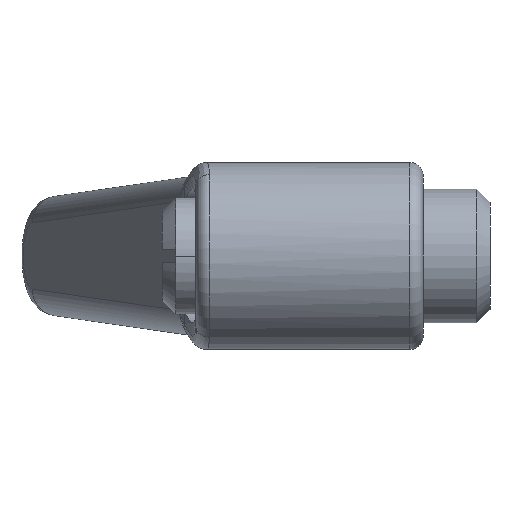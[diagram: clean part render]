
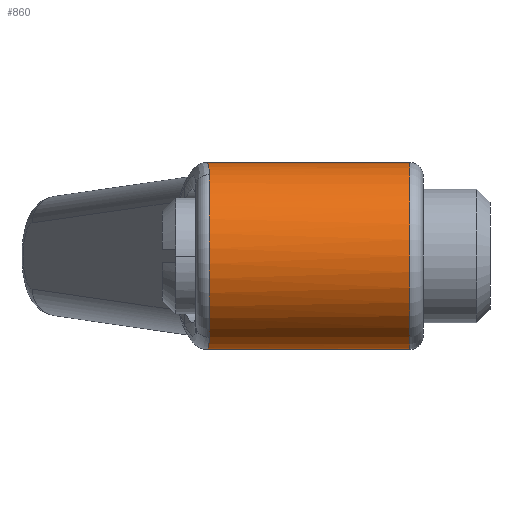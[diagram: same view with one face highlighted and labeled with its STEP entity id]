
A CAD part, left-side view. The second image highlights one B-rep face of the part: STEP entity #860.
In plain terms, the highlighted cylindrical face has radius 7 mm (diameter 14 mm), a partial arc.
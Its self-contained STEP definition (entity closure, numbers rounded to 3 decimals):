
#3 = FACE_OUTER_BOUND ( 'NONE', #1030, .T. ) ;
#55 = CARTESIAN_POINT ( 'NONE',  ( -3.461, -1., -6.084 ) ) ;
#83 = DIRECTION ( 'NONE',  ( 0., -1., 0. ) ) ;
#215 = AXIS2_PLACEMENT_3D ( 'NONE', #1991, #891, #2189 ) ;
#241 = CARTESIAN_POINT ( 'NONE',  ( 0., 17., 0. ) ) ;
#295 = CARTESIAN_POINT ( 'NONE',  ( -2.373, -0.985, -6.613 ) ) ;
#375 = CARTESIAN_POINT ( 'NONE',  ( -2.077, -0.968, 6.691 ) ) ;
#423 = CARTESIAN_POINT ( 'NONE',  ( 0., 17., -7. ) ) ;
#458 = CARTESIAN_POINT ( 'NONE',  ( -1.196, -0.912, -6.904 ) ) ;
#490 = ORIENTED_EDGE ( 'NONE', *, *, #1028, .T. ) ;
#553 = CARTESIAN_POINT ( 'NONE',  ( -2.921, -0.996, 6.368 ) ) ;
#624 = CARTESIAN_POINT ( 'NONE',  ( 0., -16., -7. ) ) ;
#651 = CARTESIAN_POINT ( 'NONE',  ( -0.299, -0.826, -7. ) ) ;
#665 = CARTESIAN_POINT ( 'NONE',  ( 0., -0.789, 7. ) ) ;
#678 = CARTESIAN_POINT ( 'NONE',  ( 0., -0.789, 7. ) ) ;
#741 = CARTESIAN_POINT ( 'NONE',  ( -3.461, -1., 6.084 ) ) ;
#775 = DIRECTION ( 'NONE',  ( 0., -1., 0. ) ) ;
#790 = DIRECTION ( 'NONE',  ( 0., 1., 0. ) ) ;
#833 = AXIS2_PLACEMENT_3D ( 'NONE', #1853, #790, #2060 ) ;
#853 = VERTEX_POINT ( 'NONE', #1642 ) ;
#860 = ADVANCED_FACE ( 'NONE', ( #3 ), #2125, .T. ) ;
#891 = DIRECTION ( 'NONE',  ( 0., -1., 0. ) ) ;
#904 = ORIENTED_EDGE ( 'NONE', *, *, #2163, .F. ) ;
#923 = ORIENTED_EDGE ( 'NONE', *, *, #1980, .T. ) ;
#936 = ORIENTED_EDGE ( 'NONE', *, *, #959, .T. ) ;
#943 = DIRECTION ( 'NONE',  ( 0., 0., -1. ) ) ;
#947 = ORIENTED_EDGE ( 'NONE', *, *, #2297, .T. ) ;
#949 = CARTESIAN_POINT ( 'NONE',  ( 0., -16., 7. ) ) ;
#959 = EDGE_CURVE ( 'NONE', #2107, #1695, #1068, .T. ) ;
#972 = ORIENTED_EDGE ( 'NONE', *, *, #1448, .T. ) ;
#1028 = EDGE_CURVE ( 'NONE', #1719, #853, #1606, .T. ) ;
#1030 = EDGE_LOOP ( 'NONE', ( #904, #490, #923, #936, #947, #972 ) ) ;
#1068 = B_SPLINE_CURVE_WITH_KNOTS ( 'NONE', 3,
 ( #1161, #2286, #295, #1498, #458, #1702, #651, #1906 ),
 .UNSPECIFIED., .F., .F.,
 ( 4, 2, 2, 4 ),
 ( 0., 0.002, 0.003, 0.004 ),
 .UNSPECIFIED. ) ;
#1161 = CARTESIAN_POINT ( 'NONE',  ( -3.461, -1., -6.084 ) ) ;
#1406 = CARTESIAN_POINT ( 'NONE',  ( -1.206, -0.917, 6.921 ) ) ;
#1413 = VERTEX_POINT ( 'NONE', #949 ) ;
#1441 = AXIS2_PLACEMENT_3D ( 'NONE', #241, #775, #943 ) ;
#1448 = EDGE_CURVE ( 'NONE', #1477, #1413, #2234, .T. ) ;
#1477 = VERTEX_POINT ( 'NONE', #624 ) ;
#1498 = CARTESIAN_POINT ( 'NONE',  ( -1.497, -0.934, -6.845 ) ) ;
#1602 = CARTESIAN_POINT ( 'NONE',  ( -2.362, -0.98, 6.596 ) ) ;
#1606 = B_SPLINE_CURVE_WITH_KNOTS ( 'NONE', 3,
 ( #665, #1999, #1406, #375, #1602, #553, #1796, #741 ),
 .UNSPECIFIED., .F., .F.,
 ( 4, 2, 2, 4 ),
 ( 0.004, 0.006, 0.007, 0.007 ),
 .UNSPECIFIED. ) ;
#1642 = CARTESIAN_POINT ( 'NONE',  ( -3.461, -1., 6.084 ) ) ;
#1695 = VERTEX_POINT ( 'NONE', #1726 ) ;
#1702 = CARTESIAN_POINT ( 'NONE',  ( -0.598, -0.858, -6.981 ) ) ;
#1719 = VERTEX_POINT ( 'NONE', #678 ) ;
#1726 = CARTESIAN_POINT ( 'NONE',  ( 0., -0.789, -7. ) ) ;
#1754 = VECTOR ( 'NONE', #83, 1000. ) ;
#1793 = LINE ( 'NONE', #423, #1754 ) ;
#1796 = CARTESIAN_POINT ( 'NONE',  ( -3.196, -1., 6.235 ) ) ;
#1805 = VECTOR ( 'NONE', #1831, 1000. ) ;
#1831 = DIRECTION ( 'NONE',  ( 0., -1., 0. ) ) ;
#1832 = LINE ( 'NONE', #2227, #1805 ) ;
#1853 = CARTESIAN_POINT ( 'NONE',  ( 0., -16., 0. ) ) ;
#1906 = CARTESIAN_POINT ( 'NONE',  ( 0., -0.789, -7. ) ) ;
#1933 = CIRCLE ( 'NONE', #215, 7. ) ;
#1980 = EDGE_CURVE ( 'NONE', #853, #2107, #1933, .T. ) ;
#1991 = CARTESIAN_POINT ( 'NONE',  ( 0., -1., 0. ) ) ;
#1999 = CARTESIAN_POINT ( 'NONE',  ( -0.597, -0.862, 7. ) ) ;
#2060 = DIRECTION ( 'NONE',  ( 0., 0., 1. ) ) ;
#2107 = VERTEX_POINT ( 'NONE', #55 ) ;
#2125 = CYLINDRICAL_SURFACE ( 'NONE', #1441, 7. ) ;
#2163 = EDGE_CURVE ( 'NONE', #1719, #1413, #1832, .T. ) ;
#2189 = DIRECTION ( 'NONE',  ( 0., 0., -1. ) ) ;
#2227 = CARTESIAN_POINT ( 'NONE',  ( 0., 17., 7. ) ) ;
#2234 = CIRCLE ( 'NONE', #833, 7. ) ;
#2286 = CARTESIAN_POINT ( 'NONE',  ( -2.931, -1., -6.386 ) ) ;
#2297 = EDGE_CURVE ( 'NONE', #1695, #1477, #1793, .T. ) ;
